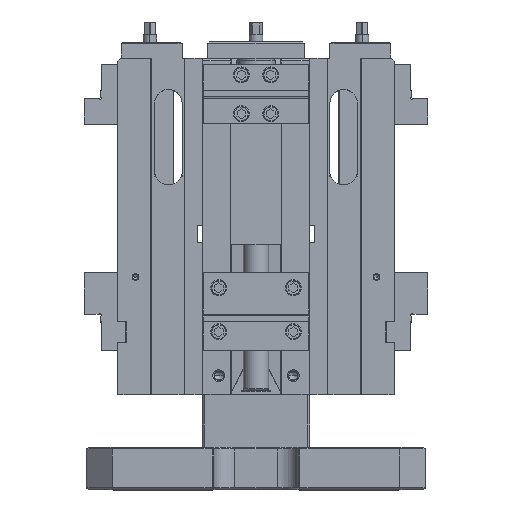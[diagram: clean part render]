
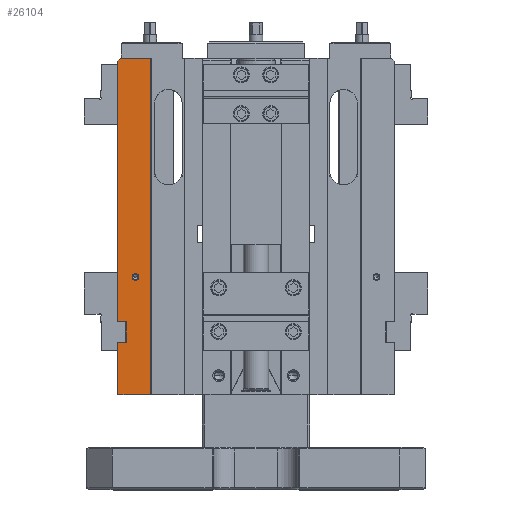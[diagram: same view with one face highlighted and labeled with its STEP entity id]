
A CAD part, top view. The second image highlights one B-rep face of the part: STEP entity #26104.
In plain terms, the highlighted planar face has unit normal (0, 0, 1).
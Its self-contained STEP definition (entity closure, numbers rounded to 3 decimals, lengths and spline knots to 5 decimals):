
#2663=DIRECTION('',(0.,1.,0.));
#2664=VECTOR('',#2663,0.062);
#2665=CARTESIAN_POINT('',(0.0365,0.1125,-0.137));
#2666=LINE('',#2665,#2664);
#2679=CARTESIAN_POINT('',(0.0575,0.2515,-0.137));
#2680=DIRECTION('',(0.,0.,-1.));
#2681=DIRECTION('',(1.,0.,0.));
#2682=AXIS2_PLACEMENT_3D('',#2679,#2680,#2681);
#2684=CARTESIAN_POINT('',(0.0575,0.2515,-0.137));
#2685=DIRECTION('',(0.,0.,-1.));
#2686=DIRECTION('',(-1.,0.,0.));
#2687=AXIS2_PLACEMENT_3D('',#2684,#2685,#2686);
#2689=DIRECTION('',(-0.707,-0.707,0.));
#2690=VECTOR('',#2689,0.00495);
#2691=CARTESIAN_POINT('',(0.04,0.5105,-0.137));
#2692=LINE('',#2691,#2690);
#2693=DIRECTION('',(-1.,0.,0.));
#2694=VECTOR('',#2693,0.0355);
#2695=CARTESIAN_POINT('',(0.0755,0.5105,-0.137));
#2696=LINE('',#2695,#2694);
#2697=DIRECTION('',(1.,0.,0.));
#2698=VECTOR('',#2697,0.039);
#2699=CARTESIAN_POINT('',(0.0365,0.1125,-0.137));
#2700=LINE('',#2699,#2698);
#2727=DIRECTION('',(-1.,0.,0.));
#2728=VECTOR('',#2727,0.01);
#2729=CARTESIAN_POINT('',(0.0465,0.1985,-0.137));
#2730=LINE('',#2729,#2728);
#2749=DIRECTION('',(0.,1.,0.));
#2750=VECTOR('',#2749,0.024);
#2751=CARTESIAN_POINT('',(0.0465,0.1745,-0.137));
#2752=LINE('',#2751,#2750);
#2787=DIRECTION('',(1.,0.,0.));
#2788=VECTOR('',#2787,0.01);
#2789=CARTESIAN_POINT('',(0.0365,0.1745,-0.137));
#2790=LINE('',#2789,#2788);
#3316=DIRECTION('',(0.,-1.,0.));
#3317=VECTOR('',#3316,0.398);
#3318=CARTESIAN_POINT('',(0.0755,0.5105,-0.137));
#3319=LINE('',#3318,#3317);
#3350=DIRECTION('',(0.,1.,0.));
#3351=VECTOR('',#3350,0.3085);
#3352=CARTESIAN_POINT('',(0.0365,0.1985,-0.137));
#3353=LINE('',#3352,#3351);
#22045=CARTESIAN_POINT('',(0.0755,0.5105,-0.137));
#22046=VERTEX_POINT('',#22045);
#22047=CARTESIAN_POINT('',(0.04,0.5105,-0.137));
#22048=VERTEX_POINT('',#22047);
#22105=CARTESIAN_POINT('',(0.0365,0.1125,-0.137));
#22106=VERTEX_POINT('',#22105);
#22107=CARTESIAN_POINT('',(0.0755,0.1125,-0.137));
#22108=VERTEX_POINT('',#22107);
#22181=CARTESIAN_POINT('',(0.0365,0.507,-0.137));
#22182=VERTEX_POINT('',#22181);
#22183=CARTESIAN_POINT('',(0.0365,0.1985,-0.137));
#22184=VERTEX_POINT('',#22183);
#22185=CARTESIAN_POINT('',(0.0365,0.1745,-0.137));
#22186=VERTEX_POINT('',#22185);
#22187=CARTESIAN_POINT('',(0.0465,0.1745,-0.137));
#22188=VERTEX_POINT('',#22187);
#22189=CARTESIAN_POINT('',(0.0465,0.1985,-0.137));
#22190=VERTEX_POINT('',#22189);
#22191=CARTESIAN_POINT('',(0.054,0.2515,-0.137));
#22192=CARTESIAN_POINT('',(0.061,0.2515,-0.137));
#22193=VERTEX_POINT('',#22191);
#22194=VERTEX_POINT('',#22192);
#26075=CARTESIAN_POINT('',(0.0365,0.1125,-0.137));
#26076=DIRECTION('',(0.,0.,1.));
#26077=DIRECTION('',(1.,0.,0.));
#26078=AXIS2_PLACEMENT_3D('',#26075,#26076,#26077);
#26079=PLANE('',#26078);
#26081=ORIENTED_EDGE('',*,*,#26080,.T.);
#26083=ORIENTED_EDGE('',*,*,#26082,.T.);
#26085=ORIENTED_EDGE('',*,*,#26084,.F.);
#26087=ORIENTED_EDGE('',*,*,#26086,.F.);
#26089=ORIENTED_EDGE('',*,*,#26088,.T.);
#26090=ORIENTED_EDGE('',*,*,#25211,.F.);
#26091=ORIENTED_EDGE('',*,*,#26061,.T.);
#26093=ORIENTED_EDGE('',*,*,#26092,.T.);
#26095=ORIENTED_EDGE('',*,*,#26094,.T.);
#26096=EDGE_LOOP('',(#26081,#26083,#26085,#26087,#26089,#26090,#26091,#26093,
#26095));
#26097=FACE_OUTER_BOUND('',#26096,.F.);
#26099=ORIENTED_EDGE('',*,*,#26098,.F.);
#26101=ORIENTED_EDGE('',*,*,#26100,.F.);
#26102=EDGE_LOOP('',(#26099,#26101));
#26103=FACE_BOUND('',#26102,.F.);
#26104=ADVANCED_FACE('',(#26097,#26103),#26079,.T.);
#2683=CIRCLE('',#2682,0.0035);
#2688=CIRCLE('',#2687,0.0035);
#25211=EDGE_CURVE('',#22106,#22108,#2700,.T.);
#26061=EDGE_CURVE('',#22106,#22186,#2666,.T.);
#26080=EDGE_CURVE('',#22190,#22184,#2730,.T.);
#26082=EDGE_CURVE('',#22184,#22182,#3353,.T.);
#26084=EDGE_CURVE('',#22048,#22182,#2692,.T.);
#26086=EDGE_CURVE('',#22046,#22048,#2696,.T.);
#26088=EDGE_CURVE('',#22046,#22108,#3319,.T.);
#26092=EDGE_CURVE('',#22186,#22188,#2790,.T.);
#26094=EDGE_CURVE('',#22188,#22190,#2752,.T.);
#26098=EDGE_CURVE('',#22194,#22193,#2683,.T.);
#26100=EDGE_CURVE('',#22193,#22194,#2688,.T.);
